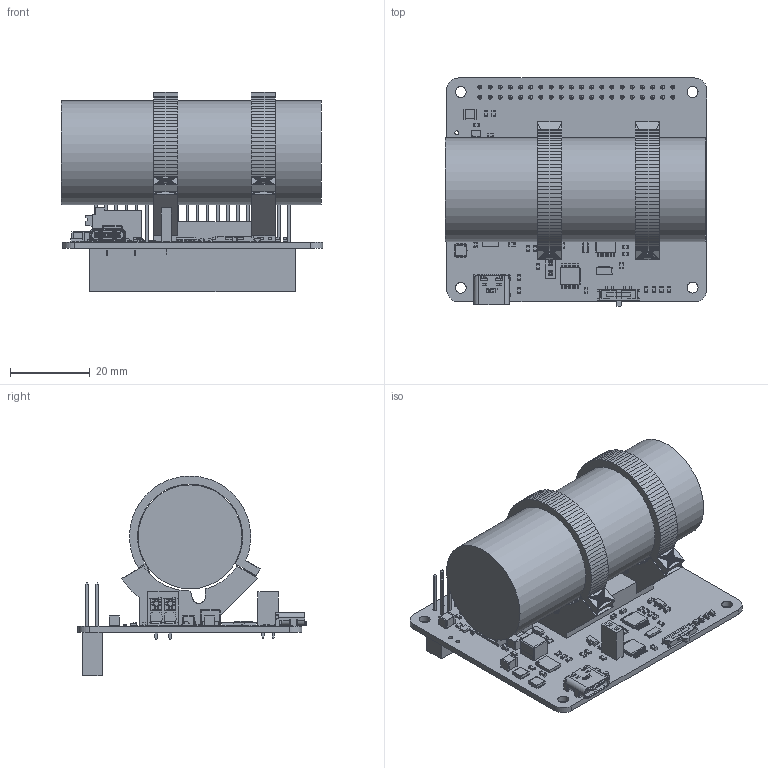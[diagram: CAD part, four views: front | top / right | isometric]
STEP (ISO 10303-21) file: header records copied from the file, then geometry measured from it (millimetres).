
FILE_DESCRIPTION(('FreeCAD Model'),'2;1');
FILE_NAME('Open CASCADE Shape Model','2026-04-26T18:46:36',(''),(''), 'Open CASCADE STEP processor 7.8','FreeCAD','Unknown');
FILE_SCHEMA(('AUTOMOTIVE_DESIGN { 1 0 10303 214 1 1 1 1 }'));
Length unit declared in the file: millimetre
Products named in the file (8): Unnamed; Battery26-with-holder; bc20_26_base_v006 (Solid)001; Battery; BC20_26_cl_v007 (Solid)001; BC20_26_cl_v008 (Solid)001; qUPS-P-LF_PCB; Fusion
Assembly tree (7 placements, depth 3):
  Unnamed
    Battery26-with-holder
      bc20_26_base_v006 (Solid)001
      Battery
      BC20_26_cl_v007 (Solid)001
      BC20_26_cl_v008 (Solid)001
    qUPS-P-LF_PCB
    Fusion
Bounding box: 65.35 x 57.05 x 49.98 mm (x, y, z)
Volume: 50386.9 mm3; surface area: 26314.7 mm2
Topology: 174 solids, 174 shells, 9120 faces, 21030 edges, 12317 vertices
Faces by surface type: plane 8099, cylinder 876, bspline 93, cone 48, sphere 4
Full cylindrical faces by diameter (mm): 0.202 x1, 0.25 x4, 0.4 x6, 0.5 x3, 0.6 x2, 0.8 x2, 0.9 x2, 1 x44, 1.2 x4, 1.3 x2, 2.1 x4, 2.7 x4, 26 x1
Entity records: 250594 total; most frequent: CARTESIAN_POINT 45536, ORIENTED_EDGE 42046, DIRECTION 40175, EDGE_CURVE 21023, LINE 18779, VECTOR 18779, VERTEX_POINT 12317, AXIS2_PLACEMENT_3D 10698
